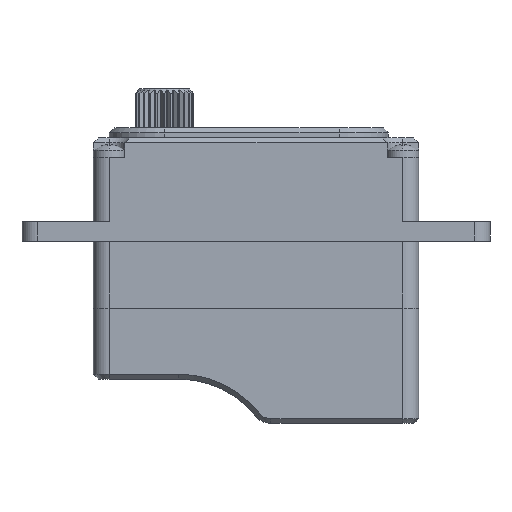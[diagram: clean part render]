
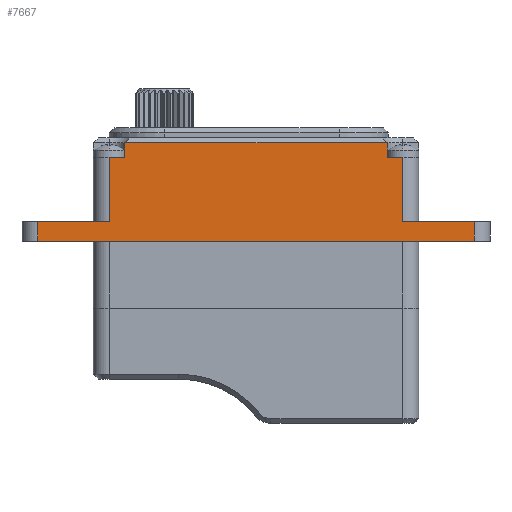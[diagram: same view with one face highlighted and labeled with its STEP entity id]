
A CAD part, front view. The second image highlights one B-rep face of the part: STEP entity #7667.
In plain terms, the highlighted planar face has unit normal (0, -1, 0).
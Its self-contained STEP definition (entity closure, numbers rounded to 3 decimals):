
#139 = EDGE_CURVE ( 'NONE', #14213, #239, #314, .T. ) ;
#239 = VERTEX_POINT ( 'NONE', #14242 ) ;
#314 = LINE ( 'NONE', #7837, #15556 ) ;
#327 = VERTEX_POINT ( 'NONE', #3533 ) ;
#375 = VERTEX_POINT ( 'NONE', #12374 ) ;
#397 = VECTOR ( 'NONE', #8006, 1000. ) ;
#421 = ORIENTED_EDGE ( 'NONE', *, *, #10836, .F. ) ;
#484 = AXIS2_PLACEMENT_3D ( 'NONE', #7507, #5242, #6331 ) ;
#518 = DIRECTION ( 'NONE',  ( 1., 0., 0. ) ) ;
#541 = CARTESIAN_POINT ( 'NONE',  ( -29.374, -1.214, 2.45 ) ) ;
#816 = EDGE_CURVE ( 'NONE', #12691, #239, #9917, .T. ) ;
#894 = ORIENTED_EDGE ( 'NONE', *, *, #15587, .T. ) ;
#1002 = ORIENTED_EDGE ( 'NONE', *, *, #10615, .T. ) ;
#1035 = VECTOR ( 'NONE', #9179, 1000. ) ;
#1282 = CARTESIAN_POINT ( 'NONE',  ( -75.274, -1.214, 2.45 ) ) ;
#1351 = CARTESIAN_POINT ( 'NONE',  ( -38.224, -1.214, 8.95 ) ) ;
#1442 = DIRECTION ( 'NONE',  ( 0., 0., 1. ) ) ;
#1495 = CARTESIAN_POINT ( 'NONE',  ( -29.374, -1.214, 2.45 ) ) ;
#1860 = CARTESIAN_POINT ( 'NONE',  ( -64.824, -1.214, 8.95 ) ) ;
#1886 = LINE ( 'NONE', #1282, #5567 ) ;
#2069 = VERTEX_POINT ( 'NONE', #1351 ) ;
#2126 = EDGE_CURVE ( 'NONE', #327, #375, #7937, .T. ) ;
#2223 = ORIENTED_EDGE ( 'NONE', *, *, #6030, .T. ) ;
#2452 = EDGE_CURVE ( 'NONE', #6767, #12691, #12560, .T. ) ;
#2491 = DIRECTION ( 'NONE',  ( 0., 0., 1. ) ) ;
#2765 = DIRECTION ( 'NONE',  ( -1., 0., 0. ) ) ;
#2860 = DIRECTION ( 'NONE',  ( -1., 0., 0. ) ) ;
#3281 = CARTESIAN_POINT ( 'NONE',  ( -38.224, -1.214, 10.45 ) ) ;
#3388 = DIRECTION ( 'NONE',  ( 1., 0., 0. ) ) ;
#3533 = CARTESIAN_POINT ( 'NONE',  ( -36.624, -1.214, 2.45 ) ) ;
#3710 = ORIENTED_EDGE ( 'NONE', *, *, #15797, .T. ) ;
#3719 = VECTOR ( 'NONE', #1442, 1000. ) ;
#3827 = VERTEX_POINT ( 'NONE', #6464 ) ;
#4157 = LINE ( 'NONE', #12811, #15671 ) ;
#4246 = CARTESIAN_POINT ( 'NONE',  ( -36.624, -1.214, 1.95 ) ) ;
#4643 = VERTEX_POINT ( 'NONE', #14342 ) ;
#4815 = DIRECTION ( 'NONE',  ( 0., 0., -1. ) ) ;
#5242 = DIRECTION ( 'NONE',  ( 0., 1., 0. ) ) ;
#5500 = ORIENTED_EDGE ( 'NONE', *, *, #816, .F. ) ;
#5567 = VECTOR ( 'NONE', #15960, 1000. ) ;
#5603 = CARTESIAN_POINT ( 'NONE',  ( -27.774, -1.214, 2.45 ) ) ;
#5744 = ORIENTED_EDGE ( 'NONE', *, *, #12633, .F. ) ;
#5862 = CARTESIAN_POINT ( 'NONE',  ( -66.424, -1.214, 8.95 ) ) ;
#5883 = VECTOR ( 'NONE', #518, 1000. ) ;
#5919 = EDGE_LOOP ( 'NONE', ( #1002, #9705, #5500, #11154, #894, #5744, #2223, #12470, #3710, #9774, #12704, #421 ) ) ;
#6030 = EDGE_CURVE ( 'NONE', #12531, #11157, #12453, .T. ) ;
#6331 = DIRECTION ( 'NONE',  ( 0., 0., -1. ) ) ;
#6430 = PLANE ( 'NONE',  #484 ) ;
#6464 = CARTESIAN_POINT ( 'NONE',  ( -29.374, -1.214, 0.45 ) ) ;
#6714 = DIRECTION ( 'NONE',  ( 0., 0., 1. ) ) ;
#6767 = VERTEX_POINT ( 'NONE', #5862 ) ;
#6826 = CARTESIAN_POINT ( 'NONE',  ( -38.224, -1.214, 8.95 ) ) ;
#7250 = CARTESIAN_POINT ( 'NONE',  ( -73.674, -1.214, 2.45 ) ) ;
#7383 = VECTOR ( 'NONE', #6714, 1000. ) ;
#7507 = CARTESIAN_POINT ( 'NONE',  ( -35.024, -1.214, 1.95 ) ) ;
#7667 = ADVANCED_FACE ( 'NONE', ( #9401 ), #6430, .F. ) ;
#7837 = CARTESIAN_POINT ( 'NONE',  ( -64.824, -1.214, 10.45 ) ) ;
#7937 = LINE ( 'NONE', #4246, #7383 ) ;
#7955 = LINE ( 'NONE', #5603, #397 ) ;
#8006 = DIRECTION ( 'NONE',  ( -1., 0., 0. ) ) ;
#8069 = VECTOR ( 'NONE', #2491, 1000. ) ;
#8705 = LINE ( 'NONE', #15915, #11991 ) ;
#8791 = VECTOR ( 'NONE', #14903, 1000. ) ;
#8811 = EDGE_CURVE ( 'NONE', #3827, #11157, #4157, .T. ) ;
#9179 = DIRECTION ( 'NONE',  ( 0., 0., 1. ) ) ;
#9275 = VECTOR ( 'NONE', #3388, 1000. ) ;
#9401 = FACE_OUTER_BOUND ( 'NONE', #5919, .T. ) ;
#9417 = EDGE_CURVE ( 'NONE', #11578, #327, #7955, .T. ) ;
#9705 = ORIENTED_EDGE ( 'NONE', *, *, #139, .T. ) ;
#9774 = ORIENTED_EDGE ( 'NONE', *, *, #9417, .T. ) ;
#9917 = LINE ( 'NONE', #1860, #1035 ) ;
#10227 = CARTESIAN_POINT ( 'NONE',  ( -73.674, -1.214, 0.45 ) ) ;
#10615 = EDGE_CURVE ( 'NONE', #2069, #14213, #11325, .T. ) ;
#10836 = EDGE_CURVE ( 'NONE', #2069, #375, #15098, .T. ) ;
#11154 = ORIENTED_EDGE ( 'NONE', *, *, #2452, .F. ) ;
#11157 = VERTEX_POINT ( 'NONE', #10227 ) ;
#11325 = LINE ( 'NONE', #13021, #8069 ) ;
#11444 = CARTESIAN_POINT ( 'NONE',  ( -64.824, -1.214, 8.95 ) ) ;
#11578 = VERTEX_POINT ( 'NONE', #541 ) ;
#11779 = LINE ( 'NONE', #1495, #3719 ) ;
#11991 = VECTOR ( 'NONE', #4815, 1000. ) ;
#12374 = CARTESIAN_POINT ( 'NONE',  ( -36.624, -1.214, 8.95 ) ) ;
#12453 = LINE ( 'NONE', #13690, #8791 ) ;
#12470 = ORIENTED_EDGE ( 'NONE', *, *, #8811, .F. ) ;
#12531 = VERTEX_POINT ( 'NONE', #7250 ) ;
#12560 = LINE ( 'NONE', #14419, #9275 ) ;
#12633 = EDGE_CURVE ( 'NONE', #12531, #4643, #1886, .T. ) ;
#12691 = VERTEX_POINT ( 'NONE', #11444 ) ;
#12704 = ORIENTED_EDGE ( 'NONE', *, *, #2126, .T. ) ;
#12811 = CARTESIAN_POINT ( 'NONE',  ( -51.524, -1.214, 0.45 ) ) ;
#13021 = CARTESIAN_POINT ( 'NONE',  ( -38.224, -1.214, 8.95 ) ) ;
#13690 = CARTESIAN_POINT ( 'NONE',  ( -73.674, -1.214, 0.45 ) ) ;
#14213 = VERTEX_POINT ( 'NONE', #3281 ) ;
#14242 = CARTESIAN_POINT ( 'NONE',  ( -64.824, -1.214, 10.45 ) ) ;
#14342 = CARTESIAN_POINT ( 'NONE',  ( -66.424, -1.214, 2.45 ) ) ;
#14419 = CARTESIAN_POINT ( 'NONE',  ( -66.424, -1.214, 8.95 ) ) ;
#14903 = DIRECTION ( 'NONE',  ( 0., 0., -1. ) ) ;
#15098 = LINE ( 'NONE', #6826, #5883 ) ;
#15556 = VECTOR ( 'NONE', #2765, 1000. ) ;
#15587 = EDGE_CURVE ( 'NONE', #6767, #4643, #8705, .T. ) ;
#15671 = VECTOR ( 'NONE', #2860, 1000. ) ;
#15797 = EDGE_CURVE ( 'NONE', #3827, #11578, #11779, .T. ) ;
#15915 = CARTESIAN_POINT ( 'NONE',  ( -66.424, -1.214, 1.95 ) ) ;
#15960 = DIRECTION ( 'NONE',  ( 1., 0., 0. ) ) ;
